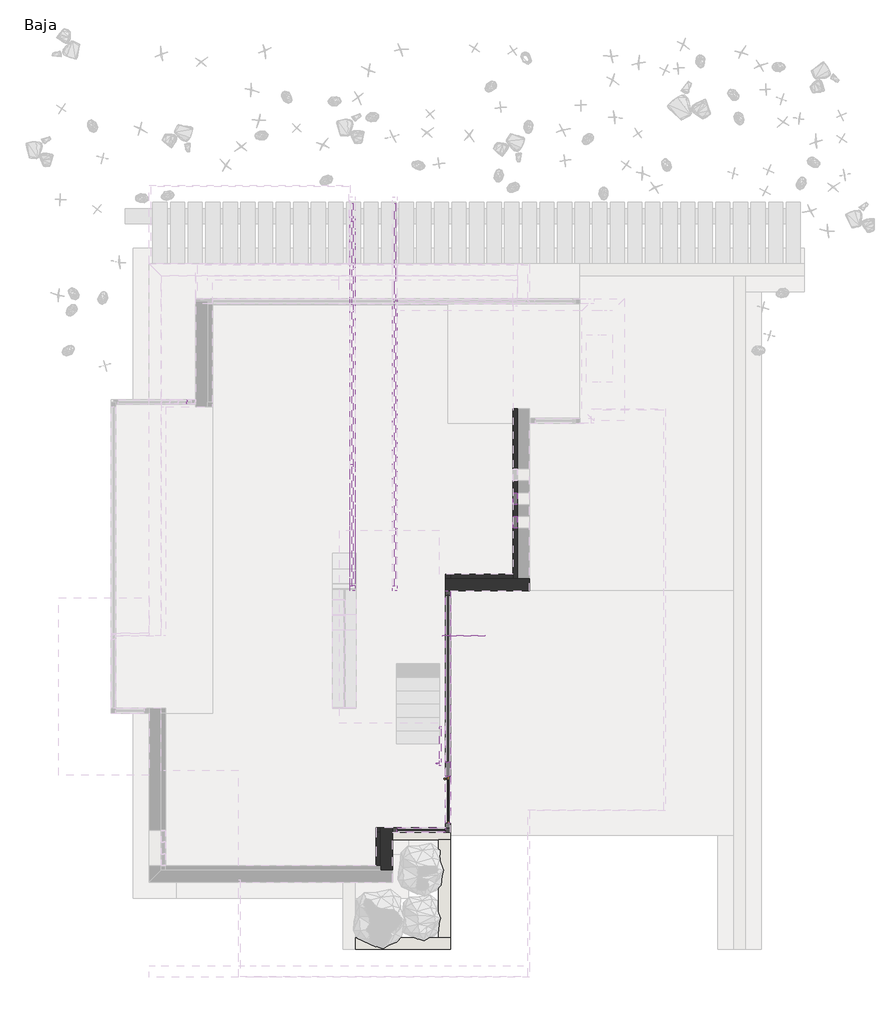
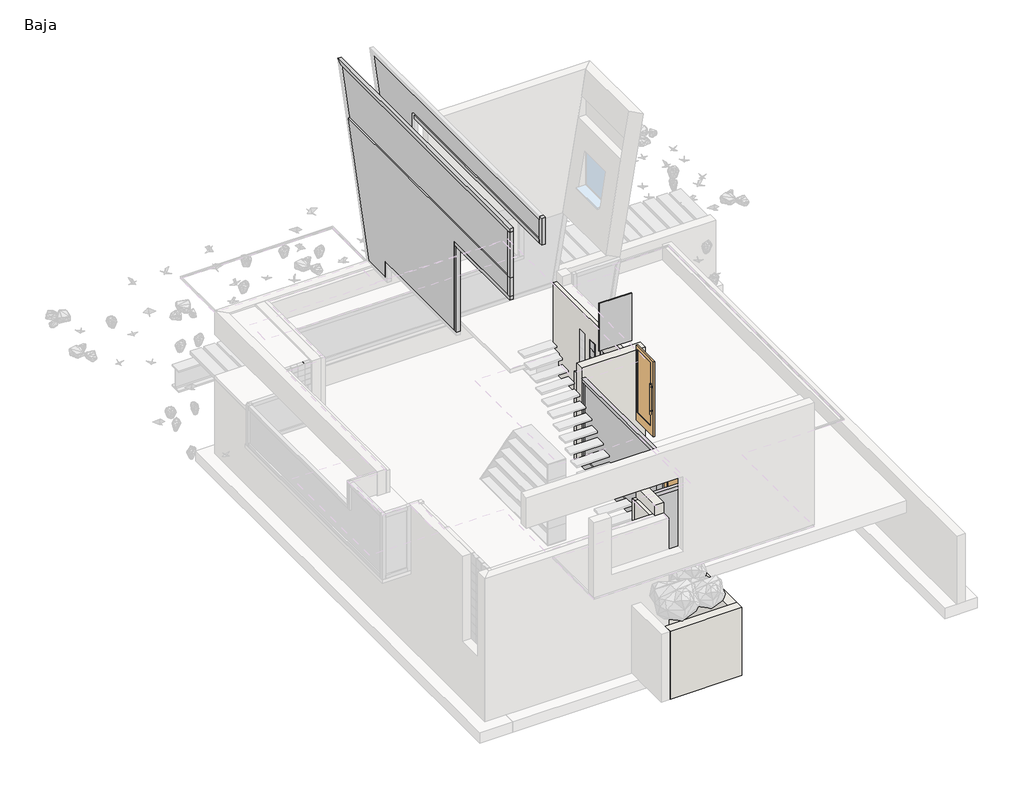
# One storey, part 3 of 7: 72 members, 24 plates, 12 walls, 2 doors.
"""IFC4 building model written with IfcOpenShell, lengths in millimetres."""

from ifc_helpers import new_model, si_unit, frame, origin, origin_with_axes, place, context, project, spatial, polyline, outline, extrude, faceted_brep, transform, mapped, element, save
from components import sgl_glass_1_sgl_glass_1_b295cdb9, sgl_glass_1_sgl_glass_1_31c06ee3, montante_rectangular_cf6d9dcd, montante_rectangular_20dad572, montante_rectangular_c9d8d644, montante_rectangular_d329d11d, montante_rectangular_d5d69b61, montante_rectangular_8270ee6e, montante_rectangular_09a74246, montante_rectangular_d17c8d82, montante_rectangular_06c3d7c7, montante_rectangular_3e73b5a5, montante_rectangular_c3090772, montante_rectangular_montante_rectangular_10_x_10_cm_8e150beb, montante_rectangular_montante_rectangular_10_x_10_cm_019deabb, montante_rectangular_montante_rectangular_10_x_10_cm_90afae0c, montante_rectangular_montante_rectangular_10_x_10_cm_59fce455, montante_rectangular_montante_rectangular_10_x_10_cm_d222450f, montante_rectangular_montante_rectangular_10_x_10_cm_db096805, montante_rectangular_montante_rectangular_10_x_10_cm_15e1f963, montante_rectangular_montante_rectangular_10_x_10_cm_b1f4fbf5, montante_rectangular_montante_rectangular_10_x_10_cm_1b3596ad, montante_rectangular_montante_rectangular_10_x_10_cm_8bd246b6, montante_rectangular_montante_rectangular_10_x_10_cm_1443ea9d, montante_rectangular_montante_rectangular_10_x_10_cm_c7c7f336, montante_rectangular_montante_rectangular_10_x_10_cm_acf9aa5a, montante_rectangular_montante_rectangular_10_x_10_cm_d74e2c2d, montante_rectangular_montante_rectangular_30_x_10_cm_c682e13a, panel_de_sistema_f0514aad, panel_de_sistema_5076b700, panel_de_sistema_acristalado_fab3a2a9, panel_de_sistema_acristalado_9fb1359a, panel_de_sistema_acristalado_23e90c11, panel_de_sistema_acristalado_d726189f, panel_de_sistema_acristalado_866c66d0, panel_de_sistema_panel_color_5e84dbe2, panel_de_sistema_uniforme_3fbd935b, panel_de_sistema_uniforme_808d6ee9

model = new_model("IFC4")

# Units and contexts
model_context = context("Model", 3, world=origin())
ifc_project = project(units=[si_unit("LENGTHUNIT", "METRE", prefix="MILLI")], contexts=[model_context])

# Site, building, storey
site = spatial("IfcSite", under=ifc_project)
building = spatial("IfcBuilding", under=site)
storey = spatial("IfcBuildingStorey", under=building, Name="Baja", Elevation=0.0)

# Doors
placement = place(None, origin())
sgl_glass_1_sgl_glass_1_shape = sgl_glass_1_sgl_glass_1_b295cdb9(model_context)
element("IfcDoor", 1, ObjectType="Sgl Glass (1) : Sgl Glass (1)", at=placement, inside=storey, context=model_context, shape_type="MappedRepresentation", body=[
    mapped(sgl_glass_1_sgl_glass_1_shape, transform((2051.6012558, -8657.6669037, 100.0), x_axis=(0.0, -1.0, 0.0), y_axis=(1.0, 0.0, 0.0), z_axis=(0.0, 0.0, 1.0))),
])
sgl_glass_1_sgl_glass_1_2_shape = sgl_glass_1_sgl_glass_1_31c06ee3(model_context)
element("IfcDoor", 2, ObjectType="Sgl Glass (1) : Sgl Glass (1)", at=placement, inside=storey, context=model_context, shape_type="MappedRepresentation", body=[
    mapped(sgl_glass_1_sgl_glass_1_2_shape, transform((1883.6012558, -7527.6669037, 3250.0), x_axis=(0.0, 1.0, 0.0), y_axis=(-1.0, 0.0, 0.0), z_axis=(0.0, 0.0, 1.0))),
])

# Members
montante_rectangular_shape = montante_rectangular_cf6d9dcd(model_context)
element("IfcMember", 3, ObjectType="Montante rectangular : Junta de paves", at=placement, inside=storey, context=model_context, shape_type="MappedRepresentation", body=[
    mapped(montante_rectangular_shape, transform((-3432.8446376, -293.1853621, 2487.5), x_axis=(1.0, 0.0, 0.0), y_axis=(0.0, -1.0, 0.0), z_axis=(0.0, 0.0, -1.0))),
])
montante_rectangular_2_shape = montante_rectangular_20dad572(model_context)
element("IfcMember", 4, ObjectType="Montante rectangular : Junta de paves", at=placement, inside=storey, context=model_context, shape_type="MappedRepresentation", body=[
    mapped(montante_rectangular_2_shape, transform((3468.9398199, -2212.9261329, 2100.0), x_axis=(0.0, 0.0, 1.0), y_axis=(1.0, 0.0, 0.0), z_axis=(0.0, 1.0, 0.0))),
])
element("IfcMember", 5, ObjectType="Montante rectangular : Junta de paves", at=placement, inside=storey, context=model_context, shape_type="MappedRepresentation", body=[
    mapped(montante_rectangular_2_shape, transform((3468.9398199, -2712.9261329, 2100.0), x_axis=(0.0, 0.0, 1.0), y_axis=(1.0, 0.0, 0.0), z_axis=(0.0, 1.0, 0.0))),
])
montante_rectangular_3_shape = montante_rectangular_c9d8d644(model_context)
element("IfcMember", 6, ObjectType="Montante rectangular : Junta de paves", at=placement, inside=storey, context=model_context, shape_type="MappedRepresentation", body=[
    mapped(montante_rectangular_3_shape, transform((3468.9398199, -2442.9261329, 100.0), x_axis=(0.0, 0.0, -1.0), y_axis=(1.0, 0.0, 0.0), z_axis=(0.0, -1.0, 0.0))),
])
element("IfcMember", 7, ObjectType="Montante rectangular : Junta de paves", at=placement, inside=storey, context=model_context, shape_type="MappedRepresentation", body=[
    mapped(montante_rectangular_3_shape, transform((3468.9398199, -2942.9261329, 100.0), x_axis=(0.0, 0.0, -1.0), y_axis=(1.0, 0.0, 0.0), z_axis=(0.0, -1.0, 0.0))),
])
montante_rectangular_4_shape = montante_rectangular_d329d11d(model_context)
element("IfcMember", 8, ObjectType="Montante rectangular : Junta de paves", at=placement, inside=storey, context=model_context, shape_type="MappedRepresentation", body=[
    mapped(montante_rectangular_4_shape, transform((3468.9398199, -2212.9261329, 350.0), x_axis=(0.0, 0.0, 1.0), y_axis=(1.0, 0.0, 0.0), z_axis=(0.0, 1.0, 0.0))),
])
element("IfcMember", 9, ObjectType="Montante rectangular : Junta de paves", at=placement, inside=storey, context=model_context, shape_type="MappedRepresentation", body=[
    mapped(montante_rectangular_4_shape, transform((3468.9398199, -2212.9261329, 600.0), x_axis=(0.0, 0.0, 1.0), y_axis=(1.0, 0.0, 0.0), z_axis=(0.0, 1.0, 0.0))),
])
element("IfcMember", 10, ObjectType="Montante rectangular : Junta de paves", at=placement, inside=storey, context=model_context, shape_type="MappedRepresentation", body=[
    mapped(montante_rectangular_4_shape, transform((3468.9398199, -2212.9261329, 850.0), x_axis=(0.0, 0.0, 1.0), y_axis=(1.0, 0.0, 0.0), z_axis=(0.0, 1.0, 0.0))),
])
element("IfcMember", 11, ObjectType="Montante rectangular : Junta de paves", at=placement, inside=storey, context=model_context, shape_type="MappedRepresentation", body=[
    mapped(montante_rectangular_4_shape, transform((3468.9398199, -2212.9261329, 1100.0), x_axis=(0.0, 0.0, 1.0), y_axis=(1.0, 0.0, 0.0), z_axis=(0.0, 1.0, 0.0))),
])
element("IfcMember", 12, ObjectType="Montante rectangular : Junta de paves", at=placement, inside=storey, context=model_context, shape_type="MappedRepresentation", body=[
    mapped(montante_rectangular_4_shape, transform((3468.9398199, -2212.9261329, 1350.0), x_axis=(0.0, 0.0, 1.0), y_axis=(1.0, 0.0, 0.0), z_axis=(0.0, 1.0, 0.0))),
])
element("IfcMember", 13, ObjectType="Montante rectangular : Junta de paves", at=placement, inside=storey, context=model_context, shape_type="MappedRepresentation", body=[
    mapped(montante_rectangular_4_shape, transform((3468.9398199, -2212.9261329, 1600.0), x_axis=(0.0, 0.0, 1.0), y_axis=(1.0, 0.0, 0.0), z_axis=(0.0, 1.0, 0.0))),
])
element("IfcMember", 14, ObjectType="Montante rectangular : Junta de paves", at=placement, inside=storey, context=model_context, shape_type="MappedRepresentation", body=[
    mapped(montante_rectangular_4_shape, transform((3468.9398199, -2212.9261329, 1850.0), x_axis=(0.0, 0.0, 1.0), y_axis=(1.0, 0.0, 0.0), z_axis=(0.0, 1.0, 0.0))),
])
element("IfcMember", 15, ObjectType="Montante rectangular : Junta de paves", at=placement, inside=storey, context=model_context, shape_type="MappedRepresentation", body=[
    mapped(montante_rectangular_4_shape, transform((3468.9398199, -2712.9261329, 350.0), x_axis=(0.0, 0.0, 1.0), y_axis=(1.0, 0.0, 0.0), z_axis=(0.0, 1.0, 0.0))),
])
element("IfcMember", 16, ObjectType="Montante rectangular : Junta de paves", at=placement, inside=storey, context=model_context, shape_type="MappedRepresentation", body=[
    mapped(montante_rectangular_4_shape, transform((3468.9398199, -2712.9261329, 600.0), x_axis=(0.0, 0.0, 1.0), y_axis=(1.0, 0.0, 0.0), z_axis=(0.0, 1.0, 0.0))),
])
element("IfcMember", 17, ObjectType="Montante rectangular : Junta de paves", at=placement, inside=storey, context=model_context, shape_type="MappedRepresentation", body=[
    mapped(montante_rectangular_4_shape, transform((3468.9398199, -2712.9261329, 850.0), x_axis=(0.0, 0.0, 1.0), y_axis=(1.0, 0.0, 0.0), z_axis=(0.0, 1.0, 0.0))),
])
element("IfcMember", 18, ObjectType="Montante rectangular : Junta de paves", at=placement, inside=storey, context=model_context, shape_type="MappedRepresentation", body=[
    mapped(montante_rectangular_4_shape, transform((3468.9398199, -2712.9261329, 1100.0), x_axis=(0.0, 0.0, 1.0), y_axis=(1.0, 0.0, 0.0), z_axis=(0.0, 1.0, 0.0))),
])
element("IfcMember", 19, ObjectType="Montante rectangular : Junta de paves", at=placement, inside=storey, context=model_context, shape_type="MappedRepresentation", body=[
    mapped(montante_rectangular_4_shape, transform((3468.9398199, -2712.9261329, 1350.0), x_axis=(0.0, 0.0, 1.0), y_axis=(1.0, 0.0, 0.0), z_axis=(0.0, 1.0, 0.0))),
])
element("IfcMember", 20, ObjectType="Montante rectangular : Junta de paves", at=placement, inside=storey, context=model_context, shape_type="MappedRepresentation", body=[
    mapped(montante_rectangular_4_shape, transform((3468.9398199, -2712.9261329, 1600.0), x_axis=(0.0, 0.0, 1.0), y_axis=(1.0, 0.0, 0.0), z_axis=(0.0, 1.0, 0.0))),
])
element("IfcMember", 21, ObjectType="Montante rectangular : Junta de paves", at=placement, inside=storey, context=model_context, shape_type="MappedRepresentation", body=[
    mapped(montante_rectangular_4_shape, transform((3468.9398199, -2712.9261329, 1850.0), x_axis=(0.0, 0.0, 1.0), y_axis=(1.0, 0.0, 0.0), z_axis=(0.0, 1.0, 0.0))),
])
montante_rectangular_5_shape = montante_rectangular_d5d69b61(model_context)
element("IfcMember", 22, ObjectType="Montante rectangular : Junta de paves", at=placement, inside=storey, context=model_context, shape_type="MappedRepresentation", body=[
    mapped(montante_rectangular_5_shape, transform((3468.9398199, -2202.9261329, 100.0), x_axis=(0.0, 1.0, 0.0), y_axis=(1.0, 0.0, 0.0), z_axis=(0.0, 0.0, -1.0))),
])
element("IfcMember", 23, ObjectType="Montante rectangular : Junta de paves", at=placement, inside=storey, context=model_context, shape_type="MappedRepresentation", body=[
    mapped(montante_rectangular_5_shape, transform((3468.9398199, -2702.9261329, 100.0), x_axis=(0.0, 1.0, 0.0), y_axis=(1.0, 0.0, 0.0), z_axis=(0.0, 0.0, -1.0))),
])
element("IfcMember", 24, ObjectType="Montante rectangular : Junta de paves", at=placement, inside=storey, context=model_context, shape_type="MappedRepresentation", body=[
    mapped(montante_rectangular_5_shape, transform((3468.9398199, -2202.9261329, 350.0), x_axis=(0.0, 1.0, 0.0), y_axis=(1.0, 0.0, 0.0), z_axis=(0.0, 0.0, -1.0))),
])
element("IfcMember", 25, ObjectType="Montante rectangular : Junta de paves", at=placement, inside=storey, context=model_context, shape_type="MappedRepresentation", body=[
    mapped(montante_rectangular_5_shape, transform((3468.9398199, -2202.9261329, 600.0), x_axis=(0.0, 1.0, 0.0), y_axis=(1.0, 0.0, 0.0), z_axis=(0.0, 0.0, -1.0))),
])
element("IfcMember", 26, ObjectType="Montante rectangular : Junta de paves", at=placement, inside=storey, context=model_context, shape_type="MappedRepresentation", body=[
    mapped(montante_rectangular_5_shape, transform((3468.9398199, -2202.9261329, 850.0), x_axis=(0.0, 1.0, 0.0), y_axis=(1.0, 0.0, 0.0), z_axis=(0.0, 0.0, -1.0))),
])
element("IfcMember", 27, ObjectType="Montante rectangular : Junta de paves", at=placement, inside=storey, context=model_context, shape_type="MappedRepresentation", body=[
    mapped(montante_rectangular_5_shape, transform((3468.9398199, -2202.9261329, 1100.0), x_axis=(0.0, 1.0, 0.0), y_axis=(1.0, 0.0, 0.0), z_axis=(0.0, 0.0, -1.0))),
])
element("IfcMember", 28, ObjectType="Montante rectangular : Junta de paves", at=placement, inside=storey, context=model_context, shape_type="MappedRepresentation", body=[
    mapped(montante_rectangular_5_shape, transform((3468.9398199, -2202.9261329, 1350.0), x_axis=(0.0, 1.0, 0.0), y_axis=(1.0, 0.0, 0.0), z_axis=(0.0, 0.0, -1.0))),
])
element("IfcMember", 29, ObjectType="Montante rectangular : Junta de paves", at=placement, inside=storey, context=model_context, shape_type="MappedRepresentation", body=[
    mapped(montante_rectangular_5_shape, transform((3468.9398199, -2202.9261329, 1600.0), x_axis=(0.0, 1.0, 0.0), y_axis=(1.0, 0.0, 0.0), z_axis=(0.0, 0.0, -1.0))),
])
element("IfcMember", 30, ObjectType="Montante rectangular : Junta de paves", at=placement, inside=storey, context=model_context, shape_type="MappedRepresentation", body=[
    mapped(montante_rectangular_5_shape, transform((3468.9398199, -2702.9261329, 350.0), x_axis=(0.0, 1.0, 0.0), y_axis=(1.0, 0.0, 0.0), z_axis=(0.0, 0.0, -1.0))),
])
element("IfcMember", 31, ObjectType="Montante rectangular : Junta de paves", at=placement, inside=storey, context=model_context, shape_type="MappedRepresentation", body=[
    mapped(montante_rectangular_5_shape, transform((3468.9398199, -2702.9261329, 600.0), x_axis=(0.0, 1.0, 0.0), y_axis=(1.0, 0.0, 0.0), z_axis=(0.0, 0.0, -1.0))),
])
element("IfcMember", 32, ObjectType="Montante rectangular : Junta de paves", at=placement, inside=storey, context=model_context, shape_type="MappedRepresentation", body=[
    mapped(montante_rectangular_5_shape, transform((3468.9398199, -2702.9261329, 850.0), x_axis=(0.0, 1.0, 0.0), y_axis=(1.0, 0.0, 0.0), z_axis=(0.0, 0.0, -1.0))),
])
element("IfcMember", 33, ObjectType="Montante rectangular : Junta de paves", at=placement, inside=storey, context=model_context, shape_type="MappedRepresentation", body=[
    mapped(montante_rectangular_5_shape, transform((3468.9398199, -2702.9261329, 1100.0), x_axis=(0.0, 1.0, 0.0), y_axis=(1.0, 0.0, 0.0), z_axis=(0.0, 0.0, -1.0))),
])
element("IfcMember", 34, ObjectType="Montante rectangular : Junta de paves", at=placement, inside=storey, context=model_context, shape_type="MappedRepresentation", body=[
    mapped(montante_rectangular_5_shape, transform((3468.9398199, -2702.9261329, 1350.0), x_axis=(0.0, 1.0, 0.0), y_axis=(1.0, 0.0, 0.0), z_axis=(0.0, 0.0, -1.0))),
])
element("IfcMember", 35, ObjectType="Montante rectangular : Junta de paves", at=placement, inside=storey, context=model_context, shape_type="MappedRepresentation", body=[
    mapped(montante_rectangular_5_shape, transform((3468.9398199, -2702.9261329, 1600.0), x_axis=(0.0, 1.0, 0.0), y_axis=(1.0, 0.0, 0.0), z_axis=(0.0, 0.0, -1.0))),
])
element("IfcMember", 36, ObjectType="Montante rectangular : Junta de paves", at=placement, inside=storey, context=model_context, shape_type="MappedRepresentation", body=[
    mapped(montante_rectangular_5_shape, transform((3468.9398199, -2202.9261329, 1850.0), x_axis=(0.0, 1.0, 0.0), y_axis=(1.0, 0.0, 0.0), z_axis=(0.0, 0.0, -1.0))),
])
element("IfcMember", 37, ObjectType="Montante rectangular : Junta de paves", at=placement, inside=storey, context=model_context, shape_type="MappedRepresentation", body=[
    mapped(montante_rectangular_5_shape, transform((3468.9398199, -2702.9261329, 1850.0), x_axis=(0.0, 1.0, 0.0), y_axis=(1.0, 0.0, 0.0), z_axis=(0.0, 0.0, -1.0))),
])
montante_rectangular_6_shape = montante_rectangular_8270ee6e(model_context)
element("IfcMember", 38, ObjectType="Montante rectangular : Junta de paves", at=placement, inside=storey, context=model_context, shape_type="MappedRepresentation", body=[
    mapped(montante_rectangular_6_shape, transform((3468.9398199, -2452.9261329, 2100.0), x_axis=(0.0, -1.0, 0.0), y_axis=(1.0, 0.0, 0.0), z_axis=(0.0, 0.0, 1.0))),
])
element("IfcMember", 39, ObjectType="Montante rectangular : Junta de paves", at=placement, inside=storey, context=model_context, shape_type="MappedRepresentation", body=[
    mapped(montante_rectangular_6_shape, transform((3468.9398199, -2952.9261329, 2100.0), x_axis=(0.0, -1.0, 0.0), y_axis=(1.0, 0.0, 0.0), z_axis=(0.0, 0.0, 1.0))),
])
element("IfcMember", 40, ObjectType="Montante rectangular : Junta de paves", at=placement, inside=storey, context=model_context, shape_type="MappedRepresentation", body=[
    mapped(montante_rectangular_6_shape, transform((3468.9398199, -2452.9261329, 350.0), x_axis=(0.0, -1.0, 0.0), y_axis=(1.0, 0.0, 0.0), z_axis=(0.0, 0.0, 1.0))),
])
element("IfcMember", 41, ObjectType="Montante rectangular : Junta de paves", at=placement, inside=storey, context=model_context, shape_type="MappedRepresentation", body=[
    mapped(montante_rectangular_6_shape, transform((3468.9398199, -2952.9261329, 350.0), x_axis=(0.0, -1.0, 0.0), y_axis=(1.0, 0.0, 0.0), z_axis=(0.0, 0.0, 1.0))),
])
element("IfcMember", 42, ObjectType="Montante rectangular : Junta de paves", at=placement, inside=storey, context=model_context, shape_type="MappedRepresentation", body=[
    mapped(montante_rectangular_6_shape, transform((3468.9398199, -2452.9261329, 600.0), x_axis=(0.0, -1.0, 0.0), y_axis=(1.0, 0.0, 0.0), z_axis=(0.0, 0.0, 1.0))),
])
element("IfcMember", 43, ObjectType="Montante rectangular : Junta de paves", at=placement, inside=storey, context=model_context, shape_type="MappedRepresentation", body=[
    mapped(montante_rectangular_6_shape, transform((3468.9398199, -2452.9261329, 850.0), x_axis=(0.0, -1.0, 0.0), y_axis=(1.0, 0.0, 0.0), z_axis=(0.0, 0.0, 1.0))),
])
element("IfcMember", 44, ObjectType="Montante rectangular : Junta de paves", at=placement, inside=storey, context=model_context, shape_type="MappedRepresentation", body=[
    mapped(montante_rectangular_6_shape, transform((3468.9398199, -2452.9261329, 1100.0), x_axis=(0.0, -1.0, 0.0), y_axis=(1.0, 0.0, 0.0), z_axis=(0.0, 0.0, 1.0))),
])
element("IfcMember", 45, ObjectType="Montante rectangular : Junta de paves", at=placement, inside=storey, context=model_context, shape_type="MappedRepresentation", body=[
    mapped(montante_rectangular_6_shape, transform((3468.9398199, -2452.9261329, 1350.0), x_axis=(0.0, -1.0, 0.0), y_axis=(1.0, 0.0, 0.0), z_axis=(0.0, 0.0, 1.0))),
])
element("IfcMember", 46, ObjectType="Montante rectangular : Junta de paves", at=placement, inside=storey, context=model_context, shape_type="MappedRepresentation", body=[
    mapped(montante_rectangular_6_shape, transform((3468.9398199, -2452.9261329, 1600.0), x_axis=(0.0, -1.0, 0.0), y_axis=(1.0, 0.0, 0.0), z_axis=(0.0, 0.0, 1.0))),
])
element("IfcMember", 47, ObjectType="Montante rectangular : Junta de paves", at=placement, inside=storey, context=model_context, shape_type="MappedRepresentation", body=[
    mapped(montante_rectangular_6_shape, transform((3468.9398199, -2452.9261329, 1850.0), x_axis=(0.0, -1.0, 0.0), y_axis=(1.0, 0.0, 0.0), z_axis=(0.0, 0.0, 1.0))),
])
element("IfcMember", 48, ObjectType="Montante rectangular : Junta de paves", at=placement, inside=storey, context=model_context, shape_type="MappedRepresentation", body=[
    mapped(montante_rectangular_6_shape, transform((3468.9398199, -2952.9261329, 600.0), x_axis=(0.0, -1.0, 0.0), y_axis=(1.0, 0.0, 0.0), z_axis=(0.0, 0.0, 1.0))),
])
element("IfcMember", 49, ObjectType="Montante rectangular : Junta de paves", at=placement, inside=storey, context=model_context, shape_type="MappedRepresentation", body=[
    mapped(montante_rectangular_6_shape, transform((3468.9398199, -2952.9261329, 850.0), x_axis=(0.0, -1.0, 0.0), y_axis=(1.0, 0.0, 0.0), z_axis=(0.0, 0.0, 1.0))),
])
element("IfcMember", 50, ObjectType="Montante rectangular : Junta de paves", at=placement, inside=storey, context=model_context, shape_type="MappedRepresentation", body=[
    mapped(montante_rectangular_6_shape, transform((3468.9398199, -2952.9261329, 1100.0), x_axis=(0.0, -1.0, 0.0), y_axis=(1.0, 0.0, 0.0), z_axis=(0.0, 0.0, 1.0))),
])
element("IfcMember", 51, ObjectType="Montante rectangular : Junta de paves", at=placement, inside=storey, context=model_context, shape_type="MappedRepresentation", body=[
    mapped(montante_rectangular_6_shape, transform((3468.9398199, -2952.9261329, 1350.0), x_axis=(0.0, -1.0, 0.0), y_axis=(1.0, 0.0, 0.0), z_axis=(0.0, 0.0, 1.0))),
])
element("IfcMember", 52, ObjectType="Montante rectangular : Junta de paves", at=placement, inside=storey, context=model_context, shape_type="MappedRepresentation", body=[
    mapped(montante_rectangular_6_shape, transform((3468.9398199, -2952.9261329, 1600.0), x_axis=(0.0, -1.0, 0.0), y_axis=(1.0, 0.0, 0.0), z_axis=(0.0, 0.0, 1.0))),
])
element("IfcMember", 53, ObjectType="Montante rectangular : Junta de paves", at=placement, inside=storey, context=model_context, shape_type="MappedRepresentation", body=[
    mapped(montante_rectangular_6_shape, transform((3468.9398199, -2952.9261329, 1850.0), x_axis=(0.0, -1.0, 0.0), y_axis=(1.0, 0.0, 0.0), z_axis=(0.0, 0.0, 1.0))),
])
montante_rectangular_7_shape = montante_rectangular_09a74246(model_context)
element("IfcMember", 54, ObjectType="Montante rectangular : CIRCLES 2", at=placement, inside=storey, context=model_context, shape_type="MappedRepresentation", body=[
    mapped(montante_rectangular_7_shape, transform((-3631.0601801, -399.0350234, 700.0), x_axis=(0.0, 0.0, 1.0), y_axis=(1.0, 0.0, 0.0), z_axis=(0.0, 1.0, 0.0))),
])
montante_rectangular_8_shape = montante_rectangular_d17c8d82(model_context)
element("IfcMember", 55, ObjectType="Montante rectangular : CIRCLES 2", at=placement, inside=storey, context=model_context, shape_type="MappedRepresentation", body=[
    mapped(montante_rectangular_8_shape, transform((-3631.0601801, -728.9241022, 700.0), x_axis=(0.0, 0.0, 1.0), y_axis=(1.0, 0.0, 0.0), z_axis=(0.0, 1.0, 0.0))),
])
montante_rectangular_9_shape = montante_rectangular_06c3d7c7(model_context)
element("IfcMember", 56, ObjectType="Montante rectangular : CIRCLES 2", at=placement, inside=storey, context=model_context, shape_type="MappedRepresentation", body=[
    mapped(montante_rectangular_9_shape, transform((-3631.0601801, -728.9241022, 100.0), x_axis=(0.0, 0.0, -1.0), y_axis=(1.0, 0.0, 0.0), z_axis=(0.0, -1.0, 0.0))),
])
montante_rectangular_10_shape = montante_rectangular_3e73b5a5(model_context)
element("IfcMember", 57, ObjectType="Montante rectangular : CIRCLES 2", at=placement, inside=storey, context=model_context, shape_type="MappedRepresentation", body=[
    mapped(montante_rectangular_10_shape, transform((-3631.0601801, -728.9241022, 120.0), x_axis=(0.0, 1.0, 0.0), y_axis=(1.0, 0.0, 0.0), z_axis=(0.0, 0.0, -1.0))),
])
montante_rectangular_11_shape = montante_rectangular_c3090772(model_context)
element("IfcMember", 58, ObjectType="Montante rectangular : CIRCLES 2", at=placement, inside=storey, context=model_context, shape_type="MappedRepresentation", body=[
    mapped(montante_rectangular_11_shape, transform((-3631.0601801, -399.0350234, 120.0), x_axis=(0.0, 1.0, 0.0), y_axis=(1.0, 0.0, 0.0), z_axis=(0.0, 0.0, -1.0))),
])
montante_rectangular_montante_rectangular_10_x_10_cm_shape = montante_rectangular_montante_rectangular_10_x_10_cm_8e150beb(model_context)
element("IfcMember", 59, ObjectType="Montante rectangular : Montante rectangular - 10 x 10 cm", at=placement, inside=storey, context=model_context, shape_type="MappedRepresentation", body=[
    mapped(montante_rectangular_montante_rectangular_10_x_10_cm_shape, transform((935.5350958, -4162.6669037, 7000.0), x_axis=(0.0, 0.0, -1.0), y_axis=(1.0, 0.0, 0.0), z_axis=(0.0, -1.0, 0.0))),
])
montante_rectangular_montante_rectangular_10_x_10_cm_2_shape = montante_rectangular_montante_rectangular_10_x_10_cm_019deabb(model_context)
element("IfcMember", 60, ObjectType="Montante rectangular : Montante rectangular - 10 x 10 cm", at=placement, inside=storey, context=model_context, shape_type="MappedRepresentation", body=[
    mapped(montante_rectangular_montante_rectangular_10_x_10_cm_2_shape, transform((2051.6012558, -7867.6669037, 2700.0), x_axis=(0.0, 0.0, 1.0), y_axis=(1.0, 0.0, 0.0), z_axis=(0.0, 1.0, 0.0))),
])
montante_rectangular_montante_rectangular_10_x_10_cm_3_shape = montante_rectangular_montante_rectangular_10_x_10_cm_90afae0c(model_context)
element("IfcMember", 61, ObjectType="Montante rectangular : Montante rectangular - 10 x 10 cm", at=placement, inside=storey, context=model_context, shape_type="MappedRepresentation", body=[
    mapped(montante_rectangular_montante_rectangular_10_x_10_cm_3_shape, transform((935.5350958, -4262.6669037, 7790.0), x_axis=(0.0, -1.0, 0.0), y_axis=(1.0, 0.0, 0.0), z_axis=(0.0, 0.0, 1.0))),
])
montante_rectangular_montante_rectangular_10_x_10_cm_4_shape = montante_rectangular_montante_rectangular_10_x_10_cm_59fce455(model_context)
element("IfcMember", 62, ObjectType="Montante rectangular : Montante rectangular - 10 x 10 cm", at=placement, inside=storey, context=model_context, shape_type="MappedRepresentation", body=[
    mapped(montante_rectangular_montante_rectangular_10_x_10_cm_4_shape, transform((2051.6012558, -8167.6669037, 2700.0), x_axis=(0.0, 0.0, 1.0), y_axis=(1.0, 0.0, 0.0), z_axis=(0.0, 1.0, 0.0))),
])
montante_rectangular_montante_rectangular_10_x_10_cm_5_shape = montante_rectangular_montante_rectangular_10_x_10_cm_d222450f(model_context)
element("IfcMember", 63, ObjectType="Montante rectangular : Montante rectangular - 10 x 10 cm", at=placement, inside=storey, context=model_context, shape_type="MappedRepresentation", body=[
    mapped(montante_rectangular_montante_rectangular_10_x_10_cm_5_shape, transform((2001.6012558, -9292.6669037, 2700.0), x_axis=(0.0, 0.0, 1.0), y_axis=(0.0, -1.0, 0.0), z_axis=(1.0, 0.0, 0.0))),
])
montante_rectangular_montante_rectangular_10_x_10_cm_6_shape = montante_rectangular_montante_rectangular_10_x_10_cm_db096805(model_context)
element("IfcMember", 64, ObjectType="Montante rectangular : Montante rectangular - 10 x 10 cm", at=placement, inside=storey, context=model_context, shape_type="MappedRepresentation", body=[
    mapped(montante_rectangular_montante_rectangular_10_x_10_cm_6_shape, transform((986.8974058, -9292.6669037, 500.0), x_axis=(0.0, 0.0, -1.0), y_axis=(0.0, -1.0, 0.0), z_axis=(-1.0, 0.0, 0.0))),
])
montante_rectangular_montante_rectangular_10_x_10_cm_7_shape = montante_rectangular_montante_rectangular_10_x_10_cm_15e1f963(model_context)
element("IfcMember", 65, ObjectType="Montante rectangular : Montante rectangular - 10 x 10 cm", at=placement, inside=storey, context=model_context, shape_type="MappedRepresentation", body=[
    mapped(montante_rectangular_montante_rectangular_10_x_10_cm_7_shape, transform((49.1398199, -4262.6669037, 7790.0), x_axis=(0.0, 0.0, 1.0), y_axis=(-1.0, 0.0, 0.0), z_axis=(0.0, -1.0, 0.0))),
])
montante_rectangular_montante_rectangular_10_x_10_cm_8_shape = montante_rectangular_montante_rectangular_10_x_10_cm_b1f4fbf5(model_context)
element("IfcMember", 66, ObjectType="Montante rectangular : Montante rectangular - 10 x 10 cm", at=placement, inside=storey, context=model_context, shape_type="MappedRepresentation", body=[
    mapped(montante_rectangular_montante_rectangular_10_x_10_cm_8_shape, transform((49.1398199, -1602.6669037, 5700.0), x_axis=(0.0, 0.0, -1.0), y_axis=(-1.0, 0.0, 0.0), z_axis=(0.0, 1.0, 0.0))),
])
montante_rectangular_montante_rectangular_10_x_10_cm_9_shape = montante_rectangular_montante_rectangular_10_x_10_cm_1b3596ad(model_context)
element("IfcMember", 67, ObjectType="Montante rectangular : Montante rectangular - 10 x 10 cm", at=placement, inside=storey, context=model_context, shape_type="MappedRepresentation", body=[
    mapped(montante_rectangular_montante_rectangular_10_x_10_cm_9_shape, transform((2051.6012558, -4262.6669037, 2700.0), x_axis=(0.0, 0.0, 1.0), y_axis=(1.0, 0.0, 0.0), z_axis=(0.0, 1.0, 0.0))),
])
montante_rectangular_montante_rectangular_10_x_10_cm_10_shape = montante_rectangular_montante_rectangular_10_x_10_cm_8bd246b6(model_context)
element("IfcMember", 68, ObjectType="Montante rectangular : Montante rectangular - 10 x 10 cm", at=placement, inside=storey, context=model_context, shape_type="MappedRepresentation", body=[
    mapped(montante_rectangular_montante_rectangular_10_x_10_cm_10_shape, transform((49.1398199, -4262.6669037, 5800.0), x_axis=(0.0, -1.0, 0.0), y_axis=(-1.0, 0.0, 0.0), z_axis=(0.0, 0.0, -1.0))),
])
montante_rectangular_montante_rectangular_10_x_10_cm_11_shape = montante_rectangular_montante_rectangular_10_x_10_cm_1443ea9d(model_context)
element("IfcMember", 69, ObjectType="Montante rectangular : Montante rectangular - 10 x 10 cm", at=placement, inside=storey, context=model_context, shape_type="MappedRepresentation", body=[
    mapped(montante_rectangular_montante_rectangular_10_x_10_cm_11_shape, transform((2051.6012558, -4262.6669037, 400.0), x_axis=(0.0, 1.0, 0.0), y_axis=(1.0, 0.0, 0.0), z_axis=(0.0, 0.0, -1.0))),
])
montante_rectangular_montante_rectangular_10_x_10_cm_12_shape = montante_rectangular_montante_rectangular_10_x_10_cm_c7c7f336(model_context)
element("IfcMember", 70, ObjectType="Montante rectangular : Montante rectangular - 10 x 10 cm", at=placement, inside=storey, context=model_context, shape_type="MappedRepresentation", body=[
    mapped(montante_rectangular_montante_rectangular_10_x_10_cm_12_shape, transform((49.1398199, -1702.6669037, 3200.0), x_axis=(0.0, -1.0, 0.0), y_axis=(-1.0, 0.0, 0.0), z_axis=(0.0, 0.0, -1.0))),
])
montante_rectangular_montante_rectangular_10_x_10_cm_13_shape = montante_rectangular_montante_rectangular_10_x_10_cm_acf9aa5a(model_context)
element("IfcMember", 71, ObjectType="Montante rectangular : Montante rectangular - 10 x 10 cm", at=placement, inside=storey, context=model_context, shape_type="MappedRepresentation", body=[
    mapped(montante_rectangular_montante_rectangular_10_x_10_cm_13_shape, transform((49.1398199, -4262.6669037, 6340.0), x_axis=(0.0, -1.0, 0.0), y_axis=(-1.0, 0.0, 0.0), z_axis=(0.0, 0.0, -1.0))),
])
element("IfcMember", 72, ObjectType="Montante rectangular : Montante rectangular - 10 x 10 cm", at=placement, inside=storey, context=model_context, shape_type="MappedRepresentation", body=[
    mapped(montante_rectangular_montante_rectangular_10_x_10_cm_11_shape, transform((2101.6012558, -9292.6669037, 500.0), x_axis=(1.0, 0.0, 0.0), y_axis=(0.0, -1.0, 0.0), z_axis=(0.0, 0.0, -1.0))),
])
montante_rectangular_montante_rectangular_10_x_10_cm_14_shape = montante_rectangular_montante_rectangular_10_x_10_cm_d74e2c2d(model_context)
element("IfcMember", 73, ObjectType="Montante rectangular : Montante rectangular - 10 x 10 cm", at=placement, inside=storey, context=model_context, shape_type="MappedRepresentation", body=[
    mapped(montante_rectangular_montante_rectangular_10_x_10_cm_14_shape, transform((886.8974058, -9292.6669037, 2700.0), x_axis=(-1.0, 0.0, 0.0), y_axis=(0.0, -1.0, 0.0), z_axis=(0.0, 0.0, 1.0))),
])
montante_rectangular_montante_rectangular_30_x_10_cm_shape = montante_rectangular_montante_rectangular_30_x_10_cm_c682e13a(model_context)
element("IfcMember", 74, ObjectType="Montante rectangular : Montante rectangular - 30 x 10 cm", at=placement, inside=storey, context=model_context, shape_type="MappedRepresentation", body=[
    mapped(montante_rectangular_montante_rectangular_30_x_10_cm_shape, transform((2051.6012558, -7867.6669037, 100.0), x_axis=(0.0, 0.0, -1.0), y_axis=(1.0, 0.0, 0.0), z_axis=(0.0, -1.0, 0.0))),
])

# Plates
panel_de_sistema_shape = panel_de_sistema_f0514aad(model_context)
element("IfcPlate", 75, ObjectType="Panel de sistema : PAVES", at=placement, inside=storey, context=model_context, shape_type="MappedRepresentation", body=[
    mapped(panel_de_sistema_shape, transform((3468.9398199, -2327.9261329, 110.0), x_axis=(0.0, 1.0, 0.0), y_axis=(-1.0, 0.0, 0.0), z_axis=(0.0, 0.0, 1.0))),
])
element("IfcPlate", 76, ObjectType="Panel de sistema : PAVES", at=placement, inside=storey, context=model_context, shape_type="MappedRepresentation", body=[
    mapped(panel_de_sistema_shape, transform((3468.9398199, -2327.9261329, 1855.0), x_axis=(0.0, 1.0, 0.0), y_axis=(-1.0, 0.0, 0.0), z_axis=(0.0, 0.0, 1.0))),
])
element("IfcPlate", 77, ObjectType="Panel de sistema : PAVES", at=placement, inside=storey, context=model_context, shape_type="MappedRepresentation", body=[
    mapped(panel_de_sistema_shape, transform((3468.9398199, -2827.9261329, 110.0), x_axis=(0.0, 1.0, 0.0), y_axis=(-1.0, 0.0, 0.0), z_axis=(0.0, 0.0, 1.0))),
])
element("IfcPlate", 78, ObjectType="Panel de sistema : PAVES", at=placement, inside=storey, context=model_context, shape_type="MappedRepresentation", body=[
    mapped(panel_de_sistema_shape, transform((3468.9398199, -2827.9261329, 1855.0), x_axis=(0.0, 1.0, 0.0), y_axis=(-1.0, 0.0, 0.0), z_axis=(0.0, 0.0, 1.0))),
])
panel_de_sistema_2_shape = panel_de_sistema_5076b700(model_context)
element("IfcPlate", 79, ObjectType="Panel de sistema : PAVES", at=placement, inside=storey, context=model_context, shape_type="MappedRepresentation", body=[
    mapped(panel_de_sistema_2_shape, transform((3468.9398199, -2327.9261329, 355.0), x_axis=(0.0, 1.0, 0.0), y_axis=(-1.0, 0.0, 0.0), z_axis=(0.0, 0.0, 1.0))),
])
element("IfcPlate", 80, ObjectType="Panel de sistema : PAVES", at=placement, inside=storey, context=model_context, shape_type="MappedRepresentation", body=[
    mapped(panel_de_sistema_2_shape, transform((3468.9398199, -2327.9261329, 605.0), x_axis=(0.0, 1.0, 0.0), y_axis=(-1.0, 0.0, 0.0), z_axis=(0.0, 0.0, 1.0))),
])
element("IfcPlate", 81, ObjectType="Panel de sistema : PAVES", at=placement, inside=storey, context=model_context, shape_type="MappedRepresentation", body=[
    mapped(panel_de_sistema_2_shape, transform((3468.9398199, -2327.9261329, 855.0), x_axis=(0.0, 1.0, 0.0), y_axis=(-1.0, 0.0, 0.0), z_axis=(0.0, 0.0, 1.0))),
])
element("IfcPlate", 82, ObjectType="Panel de sistema : PAVES", at=placement, inside=storey, context=model_context, shape_type="MappedRepresentation", body=[
    mapped(panel_de_sistema_2_shape, transform((3468.9398199, -2327.9261329, 1105.0), x_axis=(0.0, 1.0, 0.0), y_axis=(-1.0, 0.0, 0.0), z_axis=(0.0, 0.0, 1.0))),
])
element("IfcPlate", 83, ObjectType="Panel de sistema : PAVES", at=placement, inside=storey, context=model_context, shape_type="MappedRepresentation", body=[
    mapped(panel_de_sistema_2_shape, transform((3468.9398199, -2327.9261329, 1355.0), x_axis=(0.0, 1.0, 0.0), y_axis=(-1.0, 0.0, 0.0), z_axis=(0.0, 0.0, 1.0))),
])
element("IfcPlate", 84, ObjectType="Panel de sistema : PAVES", at=placement, inside=storey, context=model_context, shape_type="MappedRepresentation", body=[
    mapped(panel_de_sistema_2_shape, transform((3468.9398199, -2327.9261329, 1605.0), x_axis=(0.0, 1.0, 0.0), y_axis=(-1.0, 0.0, 0.0), z_axis=(0.0, 0.0, 1.0))),
])
element("IfcPlate", 85, ObjectType="Panel de sistema : PAVES", at=placement, inside=storey, context=model_context, shape_type="MappedRepresentation", body=[
    mapped(panel_de_sistema_2_shape, transform((3468.9398199, -2827.9261329, 355.0), x_axis=(0.0, 1.0, 0.0), y_axis=(-1.0, 0.0, 0.0), z_axis=(0.0, 0.0, 1.0))),
])
element("IfcPlate", 86, ObjectType="Panel de sistema : PAVES", at=placement, inside=storey, context=model_context, shape_type="MappedRepresentation", body=[
    mapped(panel_de_sistema_2_shape, transform((3468.9398199, -2827.9261329, 605.0), x_axis=(0.0, 1.0, 0.0), y_axis=(-1.0, 0.0, 0.0), z_axis=(0.0, 0.0, 1.0))),
])
element("IfcPlate", 87, ObjectType="Panel de sistema : PAVES", at=placement, inside=storey, context=model_context, shape_type="MappedRepresentation", body=[
    mapped(panel_de_sistema_2_shape, transform((3468.9398199, -2827.9261329, 855.0), x_axis=(0.0, 1.0, 0.0), y_axis=(-1.0, 0.0, 0.0), z_axis=(0.0, 0.0, 1.0))),
])
element("IfcPlate", 88, ObjectType="Panel de sistema : PAVES", at=placement, inside=storey, context=model_context, shape_type="MappedRepresentation", body=[
    mapped(panel_de_sistema_2_shape, transform((3468.9398199, -2827.9261329, 1105.0), x_axis=(0.0, 1.0, 0.0), y_axis=(-1.0, 0.0, 0.0), z_axis=(0.0, 0.0, 1.0))),
])
element("IfcPlate", 89, ObjectType="Panel de sistema : PAVES", at=placement, inside=storey, context=model_context, shape_type="MappedRepresentation", body=[
    mapped(panel_de_sistema_2_shape, transform((3468.9398199, -2827.9261329, 1355.0), x_axis=(0.0, 1.0, 0.0), y_axis=(-1.0, 0.0, 0.0), z_axis=(0.0, 0.0, 1.0))),
])
element("IfcPlate", 90, ObjectType="Panel de sistema : PAVES", at=placement, inside=storey, context=model_context, shape_type="MappedRepresentation", body=[
    mapped(panel_de_sistema_2_shape, transform((3468.9398199, -2827.9261329, 1605.0), x_axis=(0.0, 1.0, 0.0), y_axis=(-1.0, 0.0, 0.0), z_axis=(0.0, 0.0, 1.0))),
])
panel_de_sistema_acristalado_shape = panel_de_sistema_acristalado_fab3a2a9(model_context)
element("IfcPlate", 91, ObjectType="Panel de sistema : Acristalado", at=placement, inside=storey, context=model_context, shape_type="MappedRepresentation", body=[
    mapped(panel_de_sistema_acristalado_shape, transform((49.1398199, -141.1707712, 6340.0), x_axis=(0.0, -1.0, 0.0), y_axis=(1.0, 0.0, 0.0), z_axis=(0.0, 0.0, 1.0))),
])
panel_de_sistema_acristalado_2_shape = panel_de_sistema_acristalado_9fb1359a(model_context)
element("IfcPlate", 92, ObjectType="Panel de sistema : Acristalado", at=placement, inside=storey, context=model_context, shape_type="MappedRepresentation", body=[
    mapped(panel_de_sistema_acristalado_2_shape, transform((2051.6012558, -6115.1669037, 400.0), x_axis=(0.0, 1.0, 0.0), y_axis=(-1.0, 0.0, 0.0), z_axis=(0.0, 0.0, 1.0))),
])
panel_de_sistema_acristalado_3_shape = panel_de_sistema_acristalado_23e90c11(model_context)
element("IfcPlate", 93, ObjectType="Panel de sistema : Acristalado", at=placement, inside=storey, context=model_context, shape_type="MappedRepresentation", body=[
    mapped(panel_de_sistema_acristalado_3_shape, transform((1494.2493308, -9292.6669037, 600.0), x_axis=(1.0, 0.0, 0.0), y_axis=(0.0, 1.0, 0.0), z_axis=(0.0, 0.0, 1.0))),
])
panel_de_sistema_acristalado_4_shape = panel_de_sistema_acristalado_d726189f(model_context)
element("IfcPlate", 94, ObjectType="Panel de sistema : Acristalado", at=placement, inside=storey, context=model_context, shape_type="MappedRepresentation", body=[
    mapped(panel_de_sistema_acristalado_4_shape, transform((935.5350958, -141.1707712, 2800.0), x_axis=(0.0, 1.0, 0.0), y_axis=(-1.0, 0.0, 0.0), z_axis=(0.0, 0.0, 1.0))),
])
panel_de_sistema_acristalado_5_shape = panel_de_sistema_acristalado_866c66d0(model_context)
element("IfcPlate", 95, ObjectType="Panel de sistema : Acristalado", at=placement, inside=storey, context=model_context, shape_type="MappedRepresentation", body=[
    mapped(panel_de_sistema_acristalado_5_shape, transform((2384.5681758, -5212.6669037, 4100.0), x_axis=(1.0, 0.0, 0.0), y_axis=(0.0, 1.0, 0.0), z_axis=(0.0, 0.0, 1.0))),
])
panel_de_sistema_panel_color_shape = panel_de_sistema_panel_color_5e84dbe2(model_context)
element("IfcPlate", 96, ObjectType="Panel de sistema : Panel color", at=placement, inside=storey, context=model_context, shape_type="MappedRepresentation", body=[
    mapped(panel_de_sistema_panel_color_shape, transform((49.1398199, -328.7055187, 2750.0), x_axis=(0.0, -1.0, 0.0), y_axis=(1.0, 0.0, 0.0), z_axis=(0.0, 0.0, 1.0))),
])
panel_de_sistema_uniforme_shape = panel_de_sistema_uniforme_3fbd935b(model_context)
element("IfcPlate", 97, ObjectType="Panel de sistema : Uniforme", at=placement, inside=storey, context=model_context, shape_type="MappedRepresentation", body=[
    mapped(panel_de_sistema_uniforme_shape, transform((2051.6012558, -9195.1669037, 100.0), x_axis=(0.0, 1.0, 0.0), y_axis=(-1.0, 0.0, 0.0), z_axis=(0.0, 0.0, 1.0))),
])
panel_de_sistema_uniforme_2_shape = panel_de_sistema_uniforme_808d6ee9(model_context)
element("IfcPlate", 98, ObjectType="Panel de sistema : Uniforme", at=placement, inside=storey, context=model_context, shape_type="MappedRepresentation", body=[
    mapped(panel_de_sistema_uniforme_2_shape, transform((2051.6012558, -8017.6669037, 100.0), x_axis=(0.0, 1.0, 0.0), y_axis=(-1.0, 0.0, 0.0), z_axis=(0.0, 0.0, 1.0))),
])

# Walls
element("IfcWall", 99, ObjectType="Hormigón - 25 cm", at=placement, inside=storey, context=model_context, shape_type="Brep", body=[
    faceted_brep([(886.8974058, -10142.6669037, -1500.0), (886.8974058, -9492.6669037, -1500.0), (886.8974058, -9242.6669037, -1500.0), (886.8974058, -9242.6669037, 500.0), (886.8974058, -9242.6669037, 3000.0), (886.8974058, -10142.6669037, 3000.0), (886.8974058, -10142.6669037, 2700.0), (636.8974058, -10142.6669037, -1500.0), (636.8974058, -10142.6669037, 3000.0), (636.8974058, -9242.6669037, 3000.0), (636.8974058, -9242.6669037, 2700.0), (636.8974058, -9242.6669037, 0.0), (636.8974058, -9242.6669037, -1500.0)], [[[0, 1, 2, 3, 4, 5, 6]], [[7, 8, 9, 10, 11, 12]], [[2, 1, 0, 7, 12]], [[5, 4, 9, 8]], [[0, 6, 5, 8, 7]], [[2, 12, 11, 10, 9, 4, 3]]]),
])
element("IfcWall", 100, ObjectType="Hormigón - 25 cm", at=placement, inside=storey, context=model_context, shape_type="Brep", body=[
    faceted_brep([(2001.6012558, -4262.6669037, -1500.0), (3768.9398199, -4262.6669037, -1500.0), (3768.9398199, -4262.6669037, 0.0), (3768.9398199, -4262.6669037, 3000.0), (2001.6012558, -4262.6669037, 3000.0), (2001.6012558, -4012.6669037, -1500.0), (2001.6012558, -4012.6669037, 0.0), (2001.6012558, -4012.6669037, 2700.0), (2001.6012558, -4012.6669037, 3000.0), (3768.9398199, -4012.6669037, 3000.0), (3768.9398199, -4012.6669037, 2700.0), (3768.9398199, -4012.6669037, 0.0), (3768.9398199, -4012.6669037, -1500.0), (3518.9398199, -4012.6669037, -1500.0)], [[[0, 1, 2, 3, 4]], [[5, 6, 7, 8, 9, 10, 11, 12, 13]], [[1, 0, 5, 13, 12]], [[4, 3, 9, 8]], [[1, 12, 11, 10, 9, 3, 2]], [[0, 4, 8, 7, 6, 5]]]),
])
element("IfcWall", 101, ObjectType="Hormigón - 25", at=placement, inside=storey, context=model_context, shape_type="SweptSolid", body=[
    extrude(outline(polyline([(8061.6012558, -4262.6669037), (3768.9398199, -4262.6669037), (3768.9398199, -4012.6669037), (8061.6012558, -4012.6669037), (8061.6012558, -4262.6669037)])), frame((0.0, 0.0, -1500.0), z_axis=(0.0, 0.0, 1.0), x_axis=(1.0, 0.0, 0.0)), (0.0, 0.0, 1.0), 1500.0),
])
element("IfcWall", 102, ObjectType="Hormigón - 25", at=placement, inside=storey, context=model_context, shape_type="Brep", body=[
    faceted_brep([(101.6012558, -11802.6669037, -1500.0), (2101.6012558, -11802.6669037, -1500.0), (2101.6012558, -11802.6669037, 500.0), (101.6012558, -11802.6669037, 500.0), (101.6012558, -11552.6669037, -1500.0), (101.6012558, -11552.6669037, 500.0), (1851.6012558, -11552.6669037, 500.0), (2101.6012558, -11552.6669037, 500.0), (2101.6012558, -11552.6669037, -1500.0), (1851.6012558, -11552.6669037, -1500.0)], [[[0, 1, 2, 3]], [[4, 5, 6, 7, 8, 9]], [[1, 0, 4, 9, 8]], [[3, 2, 7, 6, 5]], [[0, 3, 5, 4]], [[2, 1, 8, 7]]]),
])
element("IfcWall", 103, ObjectType="Hormigón - 25", at=placement, inside=storey, context=model_context, shape_type="Brep", body=[
    faceted_brep([(886.8974058, -9492.6669037, 500.0), (886.8974058, -9492.6669037, -1500.0), (1851.6012558, -9492.6669037, -1500.0), (2101.6012558, -9492.6669037, -1500.0), (2101.6012558, -9492.6669037, 500.0), (1851.6012558, -9492.6669037, 500.0), (886.8974058, -9242.6669037, -1500.0), (886.8974058, -9242.6669037, 500.0), (2101.6012558, -9242.6669037, 500.0), (2101.6012558, -9242.6669037, -1500.0)], [[[0, 1, 2, 3, 4, 5]], [[6, 7, 8, 9]], [[3, 2, 1, 6, 9]], [[0, 5, 4, 8, 7]], [[4, 3, 9, 8]], [[0, 7, 6, 1]]]),
])
element("IfcWall", 104, ObjectType="Hormigón - 25", at=placement, inside=storey, context=model_context, shape_type="SweptSolid", body=[
    extrude(outline(polyline([(1851.6012558, -11552.6669037), (1851.6012558, -9492.6669037), (2101.6012558, -9492.6669037), (2101.6012558, -11552.6669037), (1851.6012558, -11552.6669037)])), frame((0.0, 0.0, -1500.0), z_axis=(0.0, 0.0, 1.0), x_axis=(1.0, 0.0, 0.0)), (0.0, 0.0, 1.0), 2000.0),
])
element("IfcWall", 105, ObjectType="Trasdosado de placa de yeso laminando", at=placement, inside=storey, context=model_context, shape_type="Brep", body=[
    faceted_brep([(636.8974058, -10047.6669037, 0.0), (636.8974058, -9342.6669037, 0.0), (636.8974058, -9342.6669037, 2700.0), (636.8974058, -10047.6669037, 2700.0), (636.8974058, -10047.6669037, 100.0), (536.8974058, -10047.6669037, 0.0), (536.8974058, -10047.6669037, 2700.0), (536.8974058, -9342.6669037, 2700.0), (536.8974058, -9342.6669037, 0.0)], [[[0, 1, 2, 3, 4]], [[5, 6, 7, 8]], [[1, 0, 5, 8]], [[3, 2, 7, 6]], [[2, 1, 8, 7]], [[0, 4, 3, 6, 5]]]),
])
element("IfcWall", 106, ObjectType="Trasdosado de placa de yeso laminando", at=placement, inside=storey, context=model_context, shape_type="SweptSolid", body=[
    extrude(outline(polyline([(636.8974058, -9342.6669037), (536.8974058, -9342.6669037), (536.8974058, -9242.6669037), (636.8974058, -9242.6669037), (636.8974058, -9342.6669037)])), origin_with_axes(), (0.0, 0.0, 1.0), 2700.0),
])
element("IfcWall", 107, ObjectType="Trasdosado de placa de yeso laminando", at=placement, inside=storey, context=model_context, shape_type="Brep", body=[
    faceted_brep([(3418.9398199, -443.1853621, 0.0), (3418.9398199, -3912.6669037, 0.0), (3418.9398199, -4012.6669037, 0.0), (3418.9398199, -4012.6669037, 2700.0), (3418.9398199, -3912.6669037, 2700.0), (3418.9398199, -443.1853621, 2700.0), (3418.9398199, -1702.9261329, 100.0), (3418.9398199, -1702.9261329, 2100.0), (3418.9398199, -1952.9261329, 2100.0), (3418.9398199, -1952.9261329, 100.0), (3418.9398199, -2452.9261329, 2100.0), (3418.9398199, -2452.9261329, 100.0), (3418.9398199, -2202.9261329, 100.0), (3418.9398199, -2202.9261329, 2100.0), (3418.9398199, -2952.9261329, 2100.0), (3418.9398199, -2952.9261329, 100.0), (3418.9398199, -2702.9261329, 100.0), (3418.9398199, -2702.9261329, 2100.0), (3518.9398199, -4012.6669037, 0.0), (3518.9398199, -443.1853621, 0.0), (3518.9398199, -443.1853621, 700.0), (3518.9398199, -443.1853621, 2700.0), (3518.9398199, -693.1853621, 2700.0), (3518.9398199, -4012.6669037, 2700.0), (3518.9398199, -1702.9261329, 2100.0), (3518.9398199, -1702.9261329, 100.0), (3518.9398199, -1952.9261329, 100.0), (3518.9398199, -1952.9261329, 2100.0), (3518.9398199, -2452.9261329, 100.0), (3518.9398199, -2452.9261329, 2100.0), (3518.9398199, -2202.9261329, 2100.0), (3518.9398199, -2202.9261329, 100.0), (3518.9398199, -2952.9261329, 100.0), (3518.9398199, -2952.9261329, 2100.0), (3518.9398199, -2702.9261329, 2100.0), (3518.9398199, -2702.9261329, 100.0)], [[[0, 1, 2, 3, 4, 5], [6, 7, 8, 9], [10, 11, 12, 13], [14, 15, 16, 17]], [[18, 19, 20, 21, 22, 23], [24, 25, 26, 27], [28, 29, 30, 31], [32, 33, 34, 35]], [[2, 1, 0, 19, 18]], [[5, 4, 3, 23, 22, 21]], [[0, 5, 21, 20, 19]], [[3, 2, 18, 23]], [[6, 25, 24, 7]], [[26, 9, 8, 27]], [[25, 6, 9, 26]], [[28, 11, 10, 29]], [[12, 31, 30, 13]], [[11, 28, 31, 12]], [[32, 15, 14, 33]], [[34, 17, 16, 35]], [[15, 32, 35, 16]], [[27, 8, 7, 24]], [[13, 30, 29, 10]], [[17, 34, 33, 14]]]),
])
element("IfcWall", 108, ObjectType="Trasdosado de placa de yeso laminando", at=placement, inside=storey, context=model_context, shape_type="SweptSolid", body=[
    extrude(outline(polyline([(2101.6012558, -3912.6669037), (3418.9398199, -3912.6669037), (3418.9398199, -4012.6669037), (2101.6012558, -4012.6669037), (2101.6012558, -3912.6669037)])), origin_with_axes(), (0.0, 0.0, 1.0), 2700.0),
])
element("IfcWall", 109, ObjectType="Trasdosado de placa de yeso laminando", at=placement, inside=storey, context=model_context, shape_type="SweptSolid", body=[
    extrude(outline(polyline([(2001.6012558, -4012.6669037), (2001.6012558, -3912.6669037), (2101.6012558, -3912.6669037), (2101.6012558, -4012.6669037), (2001.6012558, -4012.6669037)])), origin_with_axes(), (0.0, 0.0, 1.0), 2700.0),
])
element("IfcWall", 110, ObjectType="Hormigón - 25", at=placement, inside=storey, context=model_context, shape_type="SweptSolid", body=[
    extrude(outline(polyline([(-3981.0601801, -149.0350234), (-3000.1061235, -149.0350234), (-3000.1061235, -399.0350234), (-3981.0601801, -399.0350234), (-3981.0601801, -149.0350234)])), origin_with_axes(), (0.0, 0.0, 1.0), 700.0),
])

save(model, "model.ifc")
